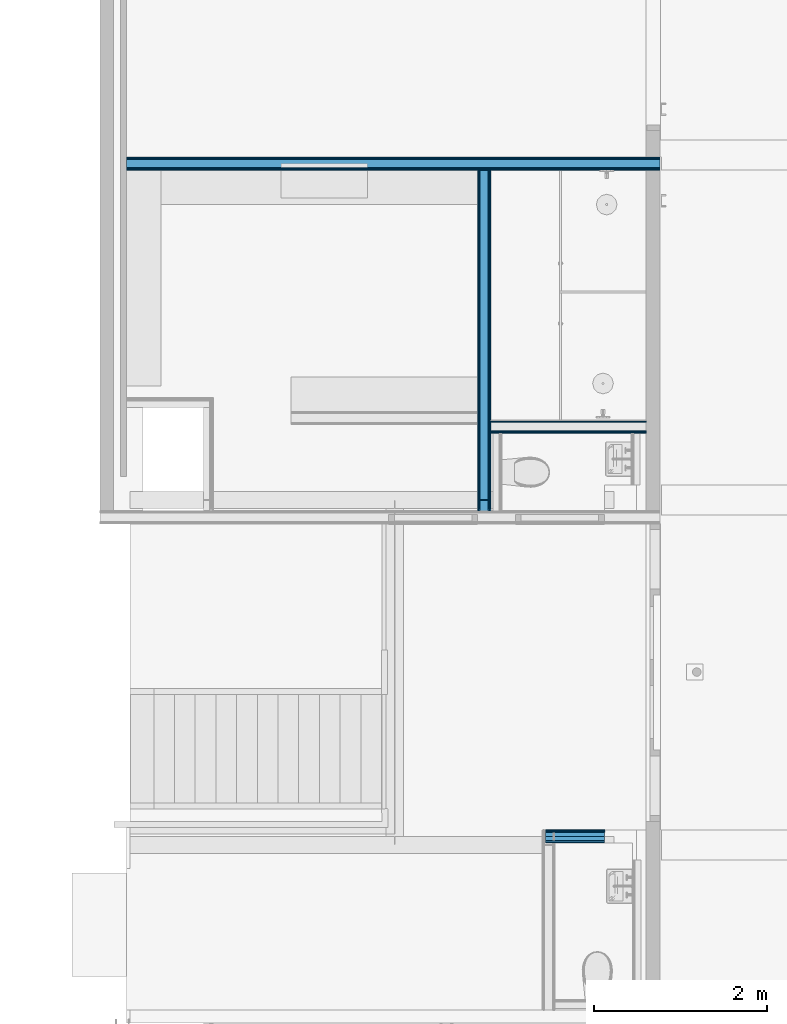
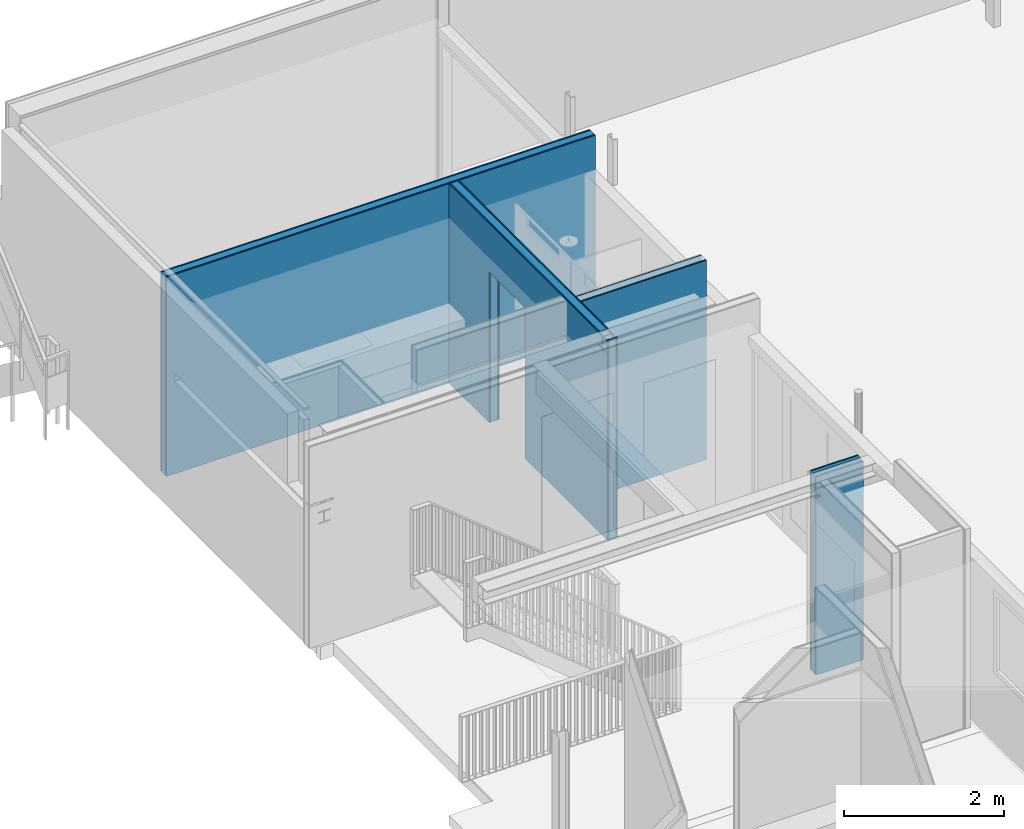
# One storey, part 12 of 35: 18 building element parts, 1 opening, 4 elements without a shape of their own.
"""IFC2X3 building model written with IfcOpenShell, lengths in millimetres."""

import ifcopenshell
import ifcopenshell.guid

model = None  # the IFC model being written
_history = None  # IfcOwnerHistory: only IFC2X3 demands one
_inside = {}  # id of a spatial element -> (the spatial element, [elements in it])
_under = {}  # id of a project, library or spatial element -> (it, [spatial elements below it])
_declared = {}  # id of a project -> (the project, [libraries it declares])
_typed = {}  # id of a type object -> (the type object, [elements of that type])
_made_of = {}  # id of a material, layer set ... -> (it, [elements and type objects made of it])


def new_model(schema):
    """Start an empty IFC model of exactly this schema.

    Asked for "IFC4X3", IfcOpenShell would pick the latest addendum, in which some entities
    have other attributes; the version numbers below select the first issue.
    IFC2X3 requires an IfcOwnerHistory on every rooted entity: one is made here for all.
    """
    global model, _history
    if schema == "IFC4X3":
        model = ifcopenshell.file(schema_version=(4, 3, 0, 0))
    else:
        model = ifcopenshell.file(schema=schema)
    _inside.clear()
    _under.clear()
    _declared.clear()
    _typed.clear()
    _made_of.clear()
    _history = None
    if model.schema == "IFC2X3":
        org = make("IfcOrganization", Name="unknown")
        user = make(
            "IfcPersonAndOrganization",
            ThePerson=make("IfcPerson", FamilyName="unknown"),
            TheOrganization=org,
        )
        app = make(
            "IfcApplication",
            ApplicationDeveloper=org,
            Version="unknown",
            ApplicationFullName="unknown",
            ApplicationIdentifier="unknown",
        )
        _history = make(
            "IfcOwnerHistory",
            OwningUser=user,
            OwningApplication=app,
            ChangeAction="ADDED",
            CreationDate=0,
        )
    return model


def make(cls, **values):
    """One entity of the class cls with the attributes given. An attribute that is None is left unset."""
    return model.create_entity(
        cls, **{name: value for name, value in values.items() if value is not None}
    )


def entity(cls, *values):
    """Any entity or typed value of the class cls, its attributes in the order of the schema. None: left unset."""
    e = model.create_entity(cls)
    for i, value in enumerate(values):
        if value is not None:
            e[i] = value
    return e


def rooted(cls, **values):
    """An entity with a GlobalId (a new one), such as an element, a storey or a relation."""
    return make(cls, GlobalId=ifcopenshell.guid.new(), OwnerHistory=_history, **values)


def si_unit(unit_type, name, prefix=None):
    """IfcSIUnit, for example si_unit("LENGTHUNIT", "METRE", prefix="MILLI")."""
    return make("IfcSIUnit", UnitType=unit_type, Prefix=prefix, Name=name)


def converted_unit(unit_type, name, factor, base, dimensions=None, offset=None):
    """IfcConversionBasedUnit, such as the inch: factor (a typed value) times the base unit."""
    return make(
        "IfcConversionBasedUnit"
        if offset is None
        else "IfcConversionBasedUnitWithOffset",
        ConversionOffset=offset,
        Dimensions=None
        if dimensions is None
        else entity("IfcDimensionalExponents", *dimensions),
        UnitType=unit_type,
        Name=name,
        ConversionFactor=make(
            "IfcMeasureWithUnit", ValueComponent=factor, UnitComponent=base
        ),
    )


def derived_unit(unit_type, elements):
    """IfcDerivedUnit: a product of units, each with its exponent."""
    return make(
        "IfcDerivedUnit",
        Elements=[
            make("IfcDerivedUnitElement", Unit=unit, Exponent=power)
            for unit, power in elements
        ],
        UnitType=unit_type,
    )


def money_unit(currency):
    """IfcMonetaryUnit."""
    return make("IfcMonetaryUnit", Currency=currency)


def assignment(units):
    """IfcUnitAssignment: the units of a project."""
    return None if units is None else make("IfcUnitAssignment", Units=units)


def point(xyz):
    """IfcCartesianPoint."""
    return None if xyz is None else make("IfcCartesianPoint", Coordinates=xyz)


def direction(xyz):
    """IfcDirection."""
    return None if xyz is None else make("IfcDirection", DirectionRatios=xyz)


def frame(location, z_axis=None, x_axis=None):
    """IfcAxis2Placement3D, a coordinate frame: its origin and axes. An axis left out is left unset."""
    return make(
        "IfcAxis2Placement3D",
        Location=point(location),
        Axis=direction(z_axis),
        RefDirection=direction(x_axis),
    )


def origin_with_axes():
    """The frame at (0, 0, 0) with the z axis (0, 0, 1) and the x axis (1, 0, 0) written out."""
    return frame((0.0, 0.0, 0.0), z_axis=(0.0, 0.0, 1.0), x_axis=(1.0, 0.0, 0.0))


def place(relative_to, where):
    """IfcLocalPlacement: puts the frame where relative to a parent placement (None: the world)."""
    return make(
        "IfcLocalPlacement", PlacementRelTo=relative_to, RelativePlacement=where
    )


def context(
    kind, dimensions, precision=None, world=None, true_north=None, identifier=None
):
    """IfcGeometricRepresentationContext, for example the 3D "Model" context."""
    return make(
        "IfcGeometricRepresentationContext",
        ContextIdentifier=identifier,
        ContextType=kind,
        CoordinateSpaceDimension=dimensions,
        Precision=precision,
        WorldCoordinateSystem=world,
        TrueNorth=true_north,
    )


def subcontext(parent, identifier, kind, view, scale=None):
    """IfcGeometricRepresentationSubContext, for example "Body" below "Model"."""
    return make(
        "IfcGeometricRepresentationSubContext",
        ContextIdentifier=identifier,
        ContextType=kind,
        ParentContext=parent,
        TargetScale=scale,
        TargetView=view,
    )


def project(units=None, contexts=None):
    """IfcProject with its units and contexts."""
    return rooted(
        "IfcProject",
        Name="project",
        RepresentationContexts=contexts,
        UnitsInContext=assignment(units),
    )


def spatial(cls, under=None, at=None, **own):
    """A site, building, storey or space (cls), placed at a placement, below another one or the project."""
    s = rooted(cls, ObjectPlacement=at, **own)
    if under is not None:
        _under.setdefault(under.id(), (under, []))[1].append(s)
    return s


def faces_of(points, faces, orient=None, outer=None):
    """IfcFace entities. A face is a list of loops; a loop is a list of indices into points, from 0.

    orient and outer hold one flag for each loop. By default every Orientation is true, the
    first loop of a face is its IfcFaceOuterBound and the others are IfcFaceBound.
    """
    made = []
    for i, loops in enumerate(faces):
        bounds = []
        for j, loop in enumerate(loops):
            is_outer = j == 0 if outer is None else outer[i][j]
            bounds.append(
                make(
                    "IfcFaceOuterBound" if is_outer else "IfcFaceBound",
                    Bound=make("IfcPolyLoop", Polygon=[points[k] for k in loop]),
                    Orientation=True if orient is None else orient[i][j],
                )
            )
        made.append(make("IfcFace", Bounds=bounds))
    return made


def faceted_brep(points, faces, orient=None, outer=None, voids=None):
    """IfcFacetedBrep: a solid bounded by flat faces; with voids (closed shells), ...WithVoids."""
    shared = [point(p) for p in points]
    hull = make("IfcClosedShell", CfsFaces=faces_of(shared, faces, orient, outer))
    if voids is None:
        return make("IfcFacetedBrep", Outer=hull)
    return make(
        "IfcFacetedBrepWithVoids",
        Outer=hull,
        Voids=[
            make(cls, CfsFaces=faces_of(shared, fs, o, b)) for cls, fs, o, b in voids
        ],
    )


def shape(context_of_items, identifier, shape_type, items):
    """IfcShapeRepresentation: the items that make up one representation, for example the "Body"."""
    return make(
        "IfcShapeRepresentation",
        ContextOfItems=context_of_items,
        RepresentationIdentifier=identifier,
        RepresentationType=shape_type,
        Items=items,
    )


def material(Name=None, Category=None):
    """IfcMaterial."""
    return make("IfcMaterial", Name=Name, Category=Category)


def made_of(thing, what):
    """Note that an element or type object is made of a material, layer set ...; save() writes the relation."""
    if what is not None:
        _made_of.setdefault(what.id(), (what, []))[1].append(thing)
    return thing


def type_object(cls, material=None, **own):
    """A type object (cls), such as IfcWallType, which elements share."""
    return made_of(rooted(cls, **own), material)


def element(
    cls,
    number,
    at=None,
    inside=None,
    cuts=None,
    type_object=None,
    material=None,
    context=None,
    identifier="Body",
    shape_type=None,
    held_by="IfcProductDefinitionShape",
    body=None,
    shapes=None,
    **own,
):
    """One element of the class cls, such as IfcWall. Its Tag is "e" and its number.

    at: its placement. inside: the storey or other place that contains it. cuts: it is an
    opening in that element (IfcRelVoidsElement). A single representation is given by context,
    identifier, shape_type and body (its items); several are given by shapes. held_by: the class
    of the entity that holds the representations. save() writes the other relations.
    """
    e = rooted(cls, Tag="e%d" % number, ObjectPlacement=at, **own)
    if body is not None:
        shapes = [shape(context, identifier, shape_type, body)]
    if shapes is not None:
        e.Representation = make(held_by, Representations=shapes)
    if inside is not None:
        _inside.setdefault(inside.id(), (inside, []))[1].append(e)
    if cuts is not None:
        rooted(
            "IfcRelVoidsElement", RelatingBuildingElement=cuts, RelatedOpeningElement=e
        )
    if type_object is not None:
        _typed.setdefault(type_object.id(), (type_object, []))[1].append(e)
    return made_of(e, material)


def aggregate(whole, parts):
    """IfcRelAggregates: a whole, such as a stair, and the parts it consists of."""
    return rooted("IfcRelAggregates", RelatingObject=whole, RelatedObjects=parts)


def save(model, path):
    """Write the relations noted so far, then the file.

    IfcRelAggregates (storeys below a building ...), IfcRelContainedInSpatialStructure (elements
    in a storey), IfcRelDefinesByType, IfcRelAssociatesMaterial and IfcRelDeclares: one each for
    every whole, place, type object, material and project.
    """
    for whole, parts in _under.values():
        aggregate(whole, parts)
    for where, things in _inside.values():
        rooted(
            "IfcRelContainedInSpatialStructure",
            RelatedElements=things,
            RelatingStructure=where,
        )
    for kind, things in _typed.values():
        rooted("IfcRelDefinesByType", RelatedObjects=things, RelatingType=kind)
    for what, things in _made_of.values():
        rooted("IfcRelAssociatesMaterial", RelatedObjects=things, RelatingMaterial=what)
    for by, libraries in _declared.values():
        rooted("IfcRelDeclares", RelatingContext=by, RelatedDefinitions=libraries)
    model.write(path)


model = new_model("IFC2X3")

# Units and contexts
model_context = context("Model", 3, precision=0.01, world=origin_with_axes(), true_north=direction((0.0, 1.0)))
body_context = subcontext(model_context, "Body", "Model", "MODEL_VIEW")
ifc_project = project(units=[si_unit("LENGTHUNIT", "METRE", prefix="MILLI"), si_unit("AREAUNIT", "SQUARE_METRE"), si_unit("VOLUMEUNIT", "CUBIC_METRE"), converted_unit("PLANEANGLEUNIT", "DEGREE", entity("IfcPlaneAngleMeasure", 0.0174532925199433), si_unit("PLANEANGLEUNIT", "RADIAN"), dimensions=[0, 0, 0, 0, 0, 0, 0]), money_unit("EUR"), converted_unit("TIMEUNIT", "Year", entity("IfcTimeMeasure", 31557600.0), si_unit("TIMEUNIT", "SECOND"), dimensions=[0, 0, 1, 0, 0, 0, 0]), si_unit("MASSUNIT", "GRAM", prefix="KILO"), si_unit("THERMODYNAMICTEMPERATUREUNIT", "DEGREE_CELSIUS"), si_unit("LUMINOUSINTENSITYUNIT", "LUMEN"), si_unit("ENERGYUNIT", "JOULE", prefix="MEGA"), derived_unit("THERMALCONDUCTANCEUNIT", [(si_unit("POWERUNIT", "WATT"), 1), (si_unit("LENGTHUNIT", "METRE"), -1), (si_unit("THERMODYNAMICTEMPERATUREUNIT", "KELVIN"), -1)]), derived_unit("SPECIFICHEATCAPACITYUNIT", [(si_unit("ENERGYUNIT", "JOULE"), 1), (si_unit("MASSUNIT", "GRAM", prefix="KILO"), -1), (si_unit("THERMODYNAMICTEMPERATUREUNIT", "KELVIN"), -1)]), derived_unit("MASSDENSITYUNIT", [(si_unit("MASSUNIT", "GRAM", prefix="KILO"), 1), (si_unit("VOLUMEUNIT", "CUBIC_METRE"), -1)])], contexts=[model_context])

# Site, building, storey
site_placement = place(None, origin_with_axes())
site = spatial("IfcSite", under=ifc_project, at=site_placement, Name="<site naam>", CompositionType="ELEMENT")
building_placement = place(site_placement, origin_with_axes())
building = spatial("IfcBuilding", under=site, at=building_placement, Name="<Naam gebouw>", CompositionType="ELEMENT")
storey_placement = place(building_placement, frame((0.0, 0.0, 6345.0), z_axis=(0.0, 0.0, 1.0), x_axis=(1.0, 0.0, 0.0)))
storey = spatial("IfcBuildingStorey", under=building, at=storey_placement, Name="02 2e tussenverdieping", CompositionType="ELEMENT", Elevation=6345.0)

# Wall, building element parts
wall_type = type_object("IfcWallType", Name="MS-01 GF 150 ECO DGS/2.100.2.A 150", PredefinedType="NOTDEFINED")
wall_1_placement = place(storey_placement, frame((52135.00000000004, 15824.99999999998, 0.0), z_axis=(0.0, 0.0, 1.0), x_axis=(1.0, 0.0, 0.0)))
wall_1 = element("IfcWall", 1, at=wall_1_placement, inside=storey, type_object=wall_type, Name="22_Binnenwand_MS-01")
ifc_material_1 = material(Name="gipsplaat")
building_element_part_1_placement = place(wall_1_placement, origin_with_axes())
building_element_part_1 = element("IfcBuildingElementPart", 2, at=building_element_part_1_placement, material=ifc_material_1, Name="gipsplaat", context=body_context, shape_type="Brep", body=[
    faceted_brep([(6182.782844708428, 137.5000000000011, 3038.000000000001), (6182.782844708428, 150.0000000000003, 3038.000000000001), (0.0, 150.0000000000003, 3038.000000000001), (0.0, 137.5000000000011, 3038.000000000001), (6182.782844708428, 137.5000000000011, 0.0), (6182.782844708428, 150.0000000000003, 0.0), (0.0, 150.0000000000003, 0.0), (0.0, 137.4999999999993, 0.0)], [[[0, 1, 2, 3]], [[0, 4, 5, 1]], [[1, 5, 6, 2]], [[3, 2, 6, 7]], [[4, 0, 3, 7]], [[5, 4, 7, 6]]]),
])
building_element_part_2_placement = place(wall_1_placement, origin_with_axes())
building_element_part_2 = element("IfcBuildingElementPart", 3, at=building_element_part_2_placement, material=ifc_material_1, Name="gipsplaat", context=body_context, shape_type="Brep", body=[
    faceted_brep([(6182.782844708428, 125.0, 3038.000000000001), (6182.782844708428, 137.5000000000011, 3038.000000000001), (0.0, 137.5000000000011, 3038.000000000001), (0.0, 125.0, 3038.000000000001), (6182.782844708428, 125.0, 0.0), (6182.782844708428, 137.5000000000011, 0.0), (0.0, 137.4999999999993, 0.0), (0.0, 125.0, 0.0)], [[[0, 1, 2, 3]], [[0, 4, 5, 1]], [[1, 5, 6, 2]], [[3, 2, 6, 7]], [[4, 0, 3, 7]], [[5, 4, 7, 6]]]),
])
ifc_material_2 = material(Name="isolatie_steenwol LSW")
building_element_part_3_placement = place(wall_1_placement, origin_with_axes())
building_element_part_3 = element("IfcBuildingElementPart", 4, at=building_element_part_3_placement, material=ifc_material_2, Name="isolatie_steenwol LSW", context=body_context, shape_type="Brep", body=[
    faceted_brep([(6182.782844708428, 25.00000000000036, 3038.000000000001), (6182.782844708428, 125.0, 3038.000000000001), (0.0, 125.0, 3038.000000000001), (0.0, 25.00000000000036, 3038.000000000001), (6182.782844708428, 25.00000000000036, 0.0), (6182.782844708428, 125.0, 0.0), (0.0, 125.0, 0.0), (0.0, 25.00000000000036, 0.0)], [[[0, 1, 2, 3]], [[0, 4, 5, 1]], [[1, 5, 6, 2]], [[3, 2, 6, 7]], [[4, 0, 3, 7]], [[5, 4, 7, 6]]]),
])
building_element_part_4_placement = place(wall_1_placement, origin_with_axes())
building_element_part_4 = element("IfcBuildingElementPart", 5, at=building_element_part_4_placement, material=ifc_material_1, Name="gipsplaat", context=body_context, shape_type="Brep", body=[
    faceted_brep([(6182.782844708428, 0.0, 3038.000000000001), (6182.782844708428, 12.50000000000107, 3038.000000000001), (0.0, 12.50000000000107, 3038.000000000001), (0.0, 0.0, 3038.000000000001), (6182.782844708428, 0.0, 0.0), (6182.782844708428, 12.50000000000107, 0.0), (0.0, 12.49999999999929, 0.0), (0.0, 0.0, 0.0)], [[[0, 1, 2, 3]], [[0, 4, 5, 1]], [[1, 5, 6, 2]], [[3, 2, 6, 7]], [[4, 0, 3, 7]], [[5, 4, 7, 6]]]),
])
building_element_part_5_placement = place(wall_1_placement, origin_with_axes())
building_element_part_5 = element("IfcBuildingElementPart", 6, at=building_element_part_5_placement, material=ifc_material_1, Name="gipsplaat", context=body_context, shape_type="Brep", body=[
    faceted_brep([(6182.782844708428, 12.50000000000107, 3038.000000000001), (6182.782844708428, 25.00000000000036, 3038.000000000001), (0.0, 25.00000000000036, 3038.000000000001), (0.0, 12.50000000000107, 3038.000000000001), (6182.782844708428, 12.50000000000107, 0.0), (6182.782844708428, 25.00000000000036, 0.0), (0.0, 25.00000000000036, 0.0), (0.0, 12.49999999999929, 0.0)], [[[0, 1, 2, 3]], [[0, 4, 5, 1]], [[1, 5, 6, 2]], [[3, 2, 6, 7]], [[4, 0, 3, 7]], [[5, 4, 7, 6]]]),
])
aggregate(wall_1, [building_element_part_1, building_element_part_2, building_element_part_3, building_element_part_4, building_element_part_5])

wall_2_placement = place(storey_placement, frame((58157.78284470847, 12775.95640098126, 0.0), z_axis=(0.0, 0.0, 1.0), x_axis=(-1.0, 0.0, 0.0)))
wall_2 = element("IfcWall", 7, at=wall_2_placement, inside=storey, type_object=wall_type, Name="22_Binnenwand_MS-01")
building_element_part_6_placement = place(wall_2_placement, origin_with_axes())
building_element_part_6 = element("IfcBuildingElementPart", 8, at=building_element_part_6_placement, material=ifc_material_1, Name="gipsplaat", context=body_context, shape_type="Brep", body=[
    faceted_brep([(1802.747141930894, -25.00000000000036, 0.0), (0.0, -25.00000000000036, 0.0), (0.0, -12.49999999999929, 0.0), (1802.747141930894, -12.49999999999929, 0.0), (1802.747141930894, -25.00000000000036, 3038.000000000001), (0.0, -25.00000000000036, 3038.000000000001), (0.0, -12.49999999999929, 3038.000000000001), (1802.747141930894, -12.49999999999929, 3038.000000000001)], [[[0, 1, 2, 3]], [[4, 5, 1, 0]], [[2, 1, 5, 6]], [[3, 2, 6, 7]], [[3, 7, 4, 0]], [[7, 6, 5, 4]]]),
])
building_element_part_7_placement = place(wall_2_placement, origin_with_axes())
building_element_part_7 = element("IfcBuildingElementPart", 9, at=building_element_part_7_placement, material=ifc_material_1, Name="gipsplaat", context=body_context, shape_type="Brep", body=[
    faceted_brep([(1802.747141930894, -12.49999999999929, 0.0), (0.0, -12.49999999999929, 0.0), (0.0, 0.0, 0.0), (1802.747141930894, 0.0, 0.0), (1802.747141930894, -12.49999999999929, 3038.000000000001), (0.0, -12.49999999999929, 3038.000000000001), (0.0, 0.0, 3038.000000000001), (1802.747141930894, 0.0, 3038.000000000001)], [[[0, 1, 2, 3]], [[4, 5, 1, 0]], [[2, 1, 5, 6]], [[3, 2, 6, 7]], [[3, 7, 4, 0]], [[7, 6, 5, 4]]]),
])
building_element_part_8_placement = place(wall_2_placement, origin_with_axes())
building_element_part_8 = element("IfcBuildingElementPart", 10, at=building_element_part_8_placement, material=ifc_material_1, Name="gipsplaat", context=body_context, shape_type="Brep", body=[
    faceted_brep([(1802.747141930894, -137.4999999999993, 0.0), (0.0, -137.4999999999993, 0.0), (0.0, -125.0, 0.0), (1802.747141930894, -125.0, 0.0), (1802.747141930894, -137.4999999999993, 3038.000000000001), (0.0, -137.4999999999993, 3038.000000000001), (0.0, -125.0, 3038.000000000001), (1802.747141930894, -125.0, 3038.000000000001)], [[[0, 1, 2, 3]], [[4, 5, 1, 0]], [[2, 1, 5, 6]], [[3, 2, 6, 7]], [[3, 7, 4, 0]], [[7, 6, 5, 4]]]),
])
aggregate(wall_2, [building_element_part_6, building_element_part_7, building_element_part_8])

# Wall, opening, building element parts
wall_3_placement = place(storey_placement, frame((56355.03570277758, 15824.99999999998, 0.0), z_axis=(0.0, 0.0, 1.0), x_axis=(0.0, -1.0, 0.0)))
wall_3 = element("IfcWall", 11, at=wall_3_placement, inside=storey, type_object=wall_type, Name="22_Binnenwand_MS-01")
opening_placement = place(wall_3_placement, frame((1449.043599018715, 0.0, 0.0), z_axis=(0.0, 0.0, 1.0), x_axis=(1.0, 0.0, 0.0)))
element("IfcOpeningElement", 12, at=opening_placement, cuts=wall_3, Name="22__305", context=body_context, shape_type="Brep", body=[
    faceted_brep([(449.9999999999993, 0.9999999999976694, 2300.0), (449.9999999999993, 0.9999999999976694, 0.0), (-449.9999999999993, 0.9999999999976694, 0.0), (-449.9999999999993, 0.9999999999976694, 2300.0), (449.9999999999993, -150.9999999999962, 2300.0), (449.9999999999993, -150.9999999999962, 0.0), (-449.9999999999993, -150.9999999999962, 0.0), (-449.9999999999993, -150.9999999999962, 2300.0)], [[[0, 1, 2, 3]], [[4, 5, 1, 0]], [[5, 6, 2, 1]], [[6, 7, 3, 2]], [[7, 4, 0, 3]], [[6, 5, 4, 7]]]),
])
building_element_part_9_placement = place(wall_3_placement, origin_with_axes())
building_element_part_9 = element("IfcBuildingElementPart", 13, at=building_element_part_9_placement, material=ifc_material_1, Name="gipsplaat", context=body_context, shape_type="Brep", body=[
    faceted_brep([(3724.999996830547, -24.99999999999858, 3038.000000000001), (3724.999996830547, -12.50000000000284, 3038.000000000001), (0.0, -12.50000000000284, 3038.000000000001), (0.0, -24.99999999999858, 3038.000000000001), (3724.999996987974, -12.50000000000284, 3022.999992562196), (3724.999996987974, -24.99999999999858, 3022.999992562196), (3925.00000301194, -12.50000000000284, 3022.999992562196), (3925.000003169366, -12.50000000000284, 3038.000000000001), (3949.99999999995, -12.50000000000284, 3038.000000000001), (3949.99999999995, -12.50000000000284, 0.0), (1899.043597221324, -12.50000000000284, 0.0), (1899.043597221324, -12.50000000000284, 3.000000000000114), (999.0435778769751, -12.50000000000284, 3.000000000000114), (999.0435778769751, -12.50000000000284, 0.0), (0.0, -12.50000000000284, 0.0), (3820.499999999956, -12.50000000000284, 3022.999992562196), (3820.499999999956, -12.50000000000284, 2852.999998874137), (3724.999996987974, -12.50000000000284, 2852.999998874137), (3724.999996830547, -12.50000000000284, 2837.999991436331), (3925.000003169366, -12.50000000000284, 2837.999991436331), (3925.00000301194, -12.50000000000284, 2852.999998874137), (3829.499999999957, -12.50000000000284, 2852.999998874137), (3829.499999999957, -12.50000000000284, 3022.999992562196), (0.0, -24.99999999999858, 0.0), (999.0435778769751, -24.99999999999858, 0.0), (999.0435778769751, -24.99999999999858, 3.000000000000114), (1899.043597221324, -24.99999999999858, 3.000000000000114), (1899.043597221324, -24.99999999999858, 0.0), (3949.99999999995, -24.99999999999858, 0.0), (3949.99999999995, -24.99999999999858, 3038.000000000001), (3925.000003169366, -24.99999999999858, 3038.000000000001), (3925.00000301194, -24.99999999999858, 3022.999992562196), (3829.499999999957, -24.99999999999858, 3022.999992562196), (3829.499999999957, -24.99999999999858, 2852.999998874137), (3925.00000301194, -24.99999999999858, 2852.999998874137), (3925.000003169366, -24.99999999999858, 2837.999991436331), (3724.999996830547, -24.99999999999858, 2837.999991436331), (3724.999996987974, -24.99999999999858, 2852.999998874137), (3820.499999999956, -24.99999999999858, 2852.999998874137), (3820.499999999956, -24.99999999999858, 3022.999992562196)], [[[0, 1, 2, 3]], [[4, 1, 0, 5]], [[6, 7, 8, 9, 10, 11, 12, 13, 14, 2, 1, 4, 15, 16, 17, 18, 19, 20, 21, 22]], [[3, 2, 14, 23]], [[5, 0, 3, 23, 24, 25, 26, 27, 28, 29, 30, 31, 32, 33, 34, 35, 36, 37, 38, 39]], [[15, 4, 5, 39]], [[30, 7, 6, 31]], [[7, 30, 29, 8]], [[29, 28, 9, 8]], [[28, 27, 10, 9]], [[26, 11, 10, 27]], [[25, 12, 11, 26]], [[24, 13, 12, 25]], [[14, 13, 24, 23]], [[16, 15, 39, 38]], [[17, 16, 38, 37]], [[18, 17, 37, 36]], [[19, 18, 36, 35]], [[20, 19, 35, 34]], [[21, 20, 34, 33]], [[22, 21, 33, 32]], [[6, 22, 32, 31]]]),
])
building_element_part_10_placement = place(wall_3_placement, origin_with_axes())
building_element_part_10 = element("IfcBuildingElementPart", 14, at=building_element_part_10_placement, material=ifc_material_1, Name="gipsplaat", context=body_context, shape_type="Brep", body=[
    faceted_brep([(3724.999996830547, -12.50000000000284, 3038.000000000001), (3724.999996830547, 0.0, 3038.000000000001), (0.0, 0.0, 3038.000000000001), (0.0, -12.50000000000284, 3038.000000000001), (3724.999996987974, 0.0, 3022.999992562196), (3724.999996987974, -12.50000000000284, 3022.999992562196), (3925.00000301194, 0.0, 3022.999992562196), (3925.000003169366, 0.0, 3038.000000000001), (3949.99999999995, 0.0, 3038.000000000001), (3949.99999999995, 0.0, 0.0), (1899.043597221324, 0.0, 0.0), (1899.043597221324, 0.0, 3.000000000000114), (999.0435778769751, 0.0, 3.000000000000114), (999.0435778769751, 0.0, 0.0), (0.0, 0.0, 0.0), (3820.499999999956, 0.0, 3022.999992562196), (3820.499999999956, 0.0, 2852.999998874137), (3724.999996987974, 0.0, 2852.999998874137), (3724.999996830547, 0.0, 2837.999991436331), (3925.000003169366, 0.0, 2837.999991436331), (3925.00000301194, 0.0, 2852.999998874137), (3829.499999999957, 0.0, 2852.999998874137), (3829.499999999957, 0.0, 3022.999992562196), (0.0, -12.50000000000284, 0.0), (999.0435778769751, -12.50000000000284, 0.0), (999.0435778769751, -12.50000000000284, 3.000000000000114), (1899.043597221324, -12.50000000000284, 3.000000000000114), (1899.043597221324, -12.50000000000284, 0.0), (3949.99999999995, -12.50000000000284, 0.0), (3949.99999999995, -12.50000000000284, 3038.000000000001), (3925.000003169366, -12.50000000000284, 3038.000000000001), (3925.00000301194, -12.50000000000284, 3022.999992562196), (3829.499999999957, -12.50000000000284, 3022.999992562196), (3829.499999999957, -12.50000000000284, 2852.999998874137), (3925.00000301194, -12.50000000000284, 2852.999998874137), (3925.000003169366, -12.50000000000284, 2837.999991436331), (3724.999996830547, -12.50000000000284, 2837.999991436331), (3724.999996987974, -12.50000000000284, 2852.999998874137), (3820.499999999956, -12.50000000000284, 2852.999998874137), (3820.499999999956, -12.50000000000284, 3022.999992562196)], [[[0, 1, 2, 3]], [[4, 1, 0, 5]], [[6, 7, 8, 9, 10, 11, 12, 13, 14, 2, 1, 4, 15, 16, 17, 18, 19, 20, 21, 22]], [[3, 2, 14, 23]], [[5, 0, 3, 23, 24, 25, 26, 27, 28, 29, 30, 31, 32, 33, 34, 35, 36, 37, 38, 39]], [[15, 4, 5, 39]], [[30, 7, 6, 31]], [[7, 30, 29, 8]], [[29, 28, 9, 8]], [[28, 27, 10, 9]], [[26, 11, 10, 27]], [[25, 12, 11, 26]], [[24, 13, 12, 25]], [[14, 13, 24, 23]], [[16, 15, 39, 38]], [[17, 16, 38, 37]], [[18, 17, 37, 36]], [[19, 18, 36, 35]], [[20, 19, 35, 34]], [[21, 20, 34, 33]], [[22, 21, 33, 32]], [[6, 22, 32, 31]]]),
])
building_element_part_11_placement = place(wall_3_placement, origin_with_axes())
building_element_part_11 = element("IfcBuildingElementPart", 15, at=building_element_part_11_placement, material=ifc_material_2, Name="isolatie_steenwol LSW", context=body_context, shape_type="Brep", body=[
    faceted_brep([(3724.999996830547, -125.0, 3038.000000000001), (3724.999996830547, -24.99999999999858, 3038.000000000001), (0.0, -24.99999999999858, 3038.000000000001), (0.0, -125.0, 3038.000000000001), (3724.999996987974, -24.99999999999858, 3022.999992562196), (3724.999996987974, -125.0, 3022.999992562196), (3925.00000301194, -24.99999999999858, 3022.999992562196), (3925.000003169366, -24.99999999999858, 3038.000000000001), (3949.99999999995, -24.99999999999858, 3038.000000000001), (3949.99999999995, -24.99999999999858, 0.0), (1899.043597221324, -24.99999999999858, 0.0), (1899.043597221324, -24.99999999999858, 3.000000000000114), (999.0435778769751, -24.99999999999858, 3.000000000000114), (999.0435778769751, -24.99999999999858, 0.0), (0.0, -24.99999999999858, 0.0), (3820.499999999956, -24.99999999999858, 3022.999992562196), (3820.499999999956, -24.99999999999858, 2852.999998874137), (3724.999996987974, -24.99999999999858, 2852.999998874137), (3724.999996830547, -24.99999999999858, 2837.999991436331), (3925.000003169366, -24.99999999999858, 2837.999991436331), (3925.00000301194, -24.99999999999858, 2852.999998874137), (3829.499999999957, -24.99999999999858, 2852.999998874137), (3829.499999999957, -24.99999999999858, 3022.999992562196), (0.0, -125.0, 0.0), (999.0435778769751, -125.0, 0.0), (999.0435778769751, -125.0, 3.000000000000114), (1899.043597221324, -125.0, 3.000000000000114), (1899.043597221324, -125.0, 0.0), (3949.99999999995, -125.0, 0.0), (3949.99999999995, -125.0, 3038.000000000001), (3925.000003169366, -125.0, 3038.000000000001), (3925.00000301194, -125.0, 3022.999992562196), (3829.499999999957, -125.0, 3022.999992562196), (3829.499999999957, -125.0, 2852.999998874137), (3925.00000301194, -125.0, 2852.999998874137), (3925.000003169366, -125.0, 2837.999991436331), (3724.999996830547, -125.0, 2837.999991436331), (3724.999996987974, -125.0, 2852.999998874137), (3820.499999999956, -125.0, 2852.999998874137), (3820.499999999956, -125.0, 3022.999992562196)], [[[0, 1, 2, 3]], [[4, 1, 0, 5]], [[6, 7, 8, 9, 10, 11, 12, 13, 14, 2, 1, 4, 15, 16, 17, 18, 19, 20, 21, 22]], [[3, 2, 14, 23]], [[5, 0, 3, 23, 24, 25, 26, 27, 28, 29, 30, 31, 32, 33, 34, 35, 36, 37, 38, 39]], [[15, 4, 5, 39]], [[30, 7, 6, 31]], [[7, 30, 29, 8]], [[29, 28, 9, 8]], [[28, 27, 10, 9]], [[26, 11, 10, 27]], [[25, 12, 11, 26]], [[24, 13, 12, 25]], [[14, 13, 24, 23]], [[16, 15, 39, 38]], [[17, 16, 38, 37]], [[18, 17, 37, 36]], [[19, 18, 36, 35]], [[20, 19, 35, 34]], [[21, 20, 34, 33]], [[22, 21, 33, 32]], [[6, 22, 32, 31]]]),
])

# Wall, building element part
wall_4_placement = place(storey_placement, frame((57675.00000000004, 8175.000000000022, 0.0), z_axis=(0.0, 0.0, 1.0), x_axis=(-1.0, 0.0, 0.0)))
wall_4 = element("IfcWall", 16, at=wall_4_placement, inside=storey, type_object=wall_type, Name="22_Binnenwand_MS-01")
building_element_part_12_placement = place(wall_4_placement, origin_with_axes())
building_element_part_12 = element("IfcBuildingElementPart", 17, at=building_element_part_12_placement, material=ifc_material_1, Name="gipsplaat", context=body_context, shape_type="Brep", body=[
    faceted_brep([(683.2171586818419, 137.4999999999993, 2837.99999214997), (0.0, 137.5000000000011, 2837.99999214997), (0.0, 137.4999999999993, 0.0), (617.21715529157, 137.4999999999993, 0.0), (617.21715529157, 137.4999999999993, 3.000000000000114), (683.2171586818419, 137.4999999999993, 3.000000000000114), (683.2171586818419, 137.4999999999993, 2700.000000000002), (617.2171201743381, 137.4999999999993, 2700.000000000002), (617.2171201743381, 137.4999999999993, 2740.000000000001), (683.2171586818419, 137.4999999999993, 2740.000000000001), (0.0, 150.0000000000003, 2837.99999214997), (683.2171586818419, 150.0000000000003, 2837.99999214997), (0.0, 150.0000000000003, 0.0), (617.21715529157, 150.0000000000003, 0.0), (617.21715529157, 150.0000000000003, 3.000000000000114), (683.2171586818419, 150.0000000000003, 3.000000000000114), (683.2171586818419, 150.0000000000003, 2700.000000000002), (617.2171201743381, 150.0000000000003, 2700.000000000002), (617.2171201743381, 150.0000000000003, 2740.000000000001), (683.2171586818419, 150.0000000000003, 2740.000000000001)], [[[0, 1, 2, 3, 4, 5, 6, 7, 8, 9]], [[10, 1, 0, 11]], [[1, 10, 12, 2]], [[12, 13, 3, 2]], [[14, 4, 3, 13]], [[15, 5, 4, 14]], [[15, 16, 6, 5]], [[17, 7, 6, 16]], [[18, 8, 7, 17]], [[19, 9, 8, 18]], [[11, 0, 9, 19]], [[10, 11, 19, 18, 17, 16, 15, 14, 13, 12]]]),
    faceted_brep([(0.0, 137.5000000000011, 3022.999993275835), (0.0, 150.0000000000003, 3022.999993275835), (0.0, 150.0000000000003, 2852.999999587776), (0.0, 137.5000000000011, 2852.999999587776), (683.2171586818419, 137.4999999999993, 3022.999993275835), (683.2171586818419, 150.0000000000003, 3022.999993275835), (683.2171586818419, 150.0000000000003, 2852.999999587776), (683.2171586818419, 137.4999999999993, 2852.999999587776)], [[[0, 1, 2, 3]], [[1, 0, 4, 5]], [[1, 5, 6, 2]], [[7, 3, 2, 6]], [[4, 0, 3, 7]], [[5, 4, 7, 6]]]),
])

# Building element part
building_element_part_13_placement = place(wall_3_placement, origin_with_axes())
building_element_part_13 = element("IfcBuildingElementPart", 18, at=building_element_part_13_placement, material=ifc_material_1, Name="gipsplaat", context=body_context, shape_type="Brep", body=[
    faceted_brep([(3724.999996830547, -149.9999999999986, 3038.000000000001), (3724.999996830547, -137.5000000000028, 3038.000000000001), (0.0, -137.5000000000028, 3038.000000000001), (0.0, -149.9999999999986, 3038.000000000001), (3724.999996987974, -137.5000000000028, 3022.999992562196), (3724.999996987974, -149.9999999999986, 3022.999992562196), (3925.00000301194, -137.5000000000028, 3022.999992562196), (3925.000003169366, -137.5000000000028, 3038.000000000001), (3949.99999999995, -137.5000000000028, 3038.000000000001), (3949.99999999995, -137.5000000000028, 0.0), (1899.043597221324, -137.5000000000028, 0.0), (1899.043597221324, -137.5000000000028, 3.000000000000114), (999.0435778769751, -137.5000000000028, 3.000000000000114), (999.0435778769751, -137.5000000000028, 0.0), (0.0, -137.5000000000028, 0.0), (3820.499999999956, -137.5000000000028, 3022.999992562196), (3820.499999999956, -137.5000000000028, 2852.999998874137), (3724.999996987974, -137.5000000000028, 2852.999998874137), (3724.999996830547, -137.5000000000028, 2837.999991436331), (3925.000003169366, -137.5000000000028, 2837.999991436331), (3925.00000301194, -137.5000000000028, 2852.999998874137), (3829.499999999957, -137.5000000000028, 2852.999998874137), (3829.499999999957, -137.5000000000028, 3022.999992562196), (0.0, -149.9999999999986, 0.0), (999.0435778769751, -149.9999999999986, 0.0), (999.0435778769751, -149.9999999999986, 3.000000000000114), (1899.043597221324, -149.9999999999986, 3.000000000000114), (1899.043597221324, -149.9999999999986, 0.0), (3949.99999999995, -149.9999999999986, 0.0), (3949.99999999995, -149.9999999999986, 3038.000000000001), (3925.000003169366, -149.9999999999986, 3038.000000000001), (3925.00000301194, -149.9999999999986, 3022.999992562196), (3829.499999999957, -149.9999999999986, 3022.999992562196), (3829.499999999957, -149.9999999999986, 2852.999998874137), (3925.00000301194, -149.9999999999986, 2852.999998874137), (3925.000003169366, -149.9999999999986, 2837.999991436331), (3724.999996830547, -149.9999999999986, 2837.999991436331), (3724.999996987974, -149.9999999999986, 2852.999998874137), (3820.499999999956, -149.9999999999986, 2852.999998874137), (3820.499999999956, -149.9999999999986, 3022.999992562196)], [[[0, 1, 2, 3]], [[4, 1, 0, 5]], [[6, 7, 8, 9, 10, 11, 12, 13, 14, 2, 1, 4, 15, 16, 17, 18, 19, 20, 21, 22]], [[3, 2, 14, 23]], [[5, 0, 3, 23, 24, 25, 26, 27, 28, 29, 30, 31, 32, 33, 34, 35, 36, 37, 38, 39]], [[15, 4, 5, 39]], [[30, 7, 6, 31]], [[7, 30, 29, 8]], [[29, 28, 9, 8]], [[28, 27, 10, 9]], [[26, 11, 10, 27]], [[25, 12, 11, 26]], [[24, 13, 12, 25]], [[14, 13, 24, 23]], [[16, 15, 39, 38]], [[17, 16, 38, 37]], [[18, 17, 37, 36]], [[19, 18, 36, 35]], [[20, 19, 35, 34]], [[21, 20, 34, 33]], [[22, 21, 33, 32]], [[6, 22, 32, 31]]]),
])

building_element_part_14_placement = place(wall_4_placement, origin_with_axes())
building_element_part_14 = element("IfcBuildingElementPart", 19, at=building_element_part_14_placement, material=ifc_material_1, Name="gipsplaat", context=body_context, shape_type="Brep", body=[
    faceted_brep([(683.2171586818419, 125.0, 2837.99999214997), (0.0, 125.0, 2837.99999214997), (0.0, 125.0, 0.0), (617.21715529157, 125.0, 0.0), (617.21715529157, 125.0, 3.000000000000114), (683.2171586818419, 125.0, 3.000000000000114), (683.2171586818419, 125.0, 2700.000000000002), (617.2171201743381, 125.0, 2700.000000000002), (617.2171201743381, 125.0, 2740.000000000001), (683.2171586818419, 125.0, 2740.000000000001), (0.0, 137.5000000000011, 2837.99999214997), (683.2171586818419, 137.4999999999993, 2837.99999214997), (0.0, 137.4999999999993, 0.0), (617.21715529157, 137.4999999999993, 0.0), (617.21715529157, 137.4999999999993, 3.000000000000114), (683.2171586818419, 137.4999999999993, 3.000000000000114), (683.2171586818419, 137.4999999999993, 2700.000000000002), (617.2171201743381, 137.4999999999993, 2700.000000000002), (617.2171201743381, 137.4999999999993, 2740.000000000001), (683.2171586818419, 137.4999999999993, 2740.000000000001)], [[[0, 1, 2, 3, 4, 5, 6, 7, 8, 9]], [[10, 1, 0, 11]], [[1, 10, 12, 2]], [[12, 13, 3, 2]], [[14, 4, 3, 13]], [[15, 5, 4, 14]], [[15, 16, 6, 5]], [[17, 7, 6, 16]], [[18, 8, 7, 17]], [[19, 9, 8, 18]], [[11, 0, 9, 19]], [[10, 11, 19, 18, 17, 16, 15, 14, 13, 12]]]),
    faceted_brep([(0.0, 125.0, 3022.999993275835), (0.0, 137.5000000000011, 3022.999993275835), (0.0, 137.5000000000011, 2852.999999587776), (0.0, 125.0, 2852.999999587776), (683.2171586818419, 125.0, 3022.999993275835), (683.2171586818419, 137.4999999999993, 3022.999993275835), (683.2171586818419, 137.4999999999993, 2852.999999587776), (683.2171586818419, 125.0, 2852.999999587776)], [[[0, 1, 2, 3]], [[1, 0, 4, 5]], [[1, 5, 6, 2]], [[7, 3, 2, 6]], [[4, 0, 3, 7]], [[5, 4, 7, 6]]]),
])

building_element_part_15_placement = place(wall_3_placement, origin_with_axes())
building_element_part_15 = element("IfcBuildingElementPart", 20, at=building_element_part_15_placement, material=ifc_material_1, Name="gipsplaat", context=body_context, shape_type="Brep", body=[
    faceted_brep([(3724.999996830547, -137.5000000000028, 3038.000000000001), (3724.999996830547, -125.0, 3038.000000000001), (0.0, -125.0, 3038.000000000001), (0.0, -137.5000000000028, 3038.000000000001), (3724.999996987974, -125.0, 3022.999992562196), (3724.999996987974, -137.5000000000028, 3022.999992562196), (3925.00000301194, -125.0, 3022.999992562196), (3925.000003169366, -125.0, 3038.000000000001), (3949.99999999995, -125.0, 3038.000000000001), (3949.99999999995, -125.0, 0.0), (1899.043597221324, -125.0, 0.0), (1899.043597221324, -125.0, 3.000000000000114), (999.0435778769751, -125.0, 3.000000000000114), (999.0435778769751, -125.0, 0.0), (0.0, -125.0, 0.0), (3820.499999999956, -125.0, 3022.999992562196), (3820.499999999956, -125.0, 2852.999998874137), (3724.999996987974, -125.0, 2852.999998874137), (3724.999996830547, -125.0, 2837.999991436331), (3925.000003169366, -125.0, 2837.999991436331), (3925.00000301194, -125.0, 2852.999998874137), (3829.499999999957, -125.0, 2852.999998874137), (3829.499999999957, -125.0, 3022.999992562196), (0.0, -137.5000000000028, 0.0), (999.0435778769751, -137.5000000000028, 0.0), (999.0435778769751, -137.5000000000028, 3.000000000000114), (1899.043597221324, -137.5000000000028, 3.000000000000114), (1899.043597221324, -137.5000000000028, 0.0), (3949.99999999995, -137.5000000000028, 0.0), (3949.99999999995, -137.5000000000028, 3038.000000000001), (3925.000003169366, -137.5000000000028, 3038.000000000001), (3925.00000301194, -137.5000000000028, 3022.999992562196), (3829.499999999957, -137.5000000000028, 3022.999992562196), (3829.499999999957, -137.5000000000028, 2852.999998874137), (3925.00000301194, -137.5000000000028, 2852.999998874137), (3925.000003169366, -137.5000000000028, 2837.999991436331), (3724.999996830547, -137.5000000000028, 2837.999991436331), (3724.999996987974, -137.5000000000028, 2852.999998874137), (3820.499999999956, -137.5000000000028, 2852.999998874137), (3820.499999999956, -137.5000000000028, 3022.999992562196)], [[[0, 1, 2, 3]], [[4, 1, 0, 5]], [[6, 7, 8, 9, 10, 11, 12, 13, 14, 2, 1, 4, 15, 16, 17, 18, 19, 20, 21, 22]], [[3, 2, 14, 23]], [[5, 0, 3, 23, 24, 25, 26, 27, 28, 29, 30, 31, 32, 33, 34, 35, 36, 37, 38, 39]], [[15, 4, 5, 39]], [[30, 7, 6, 31]], [[7, 30, 29, 8]], [[29, 28, 9, 8]], [[28, 27, 10, 9]], [[26, 11, 10, 27]], [[25, 12, 11, 26]], [[24, 13, 12, 25]], [[14, 13, 24, 23]], [[16, 15, 39, 38]], [[17, 16, 38, 37]], [[18, 17, 37, 36]], [[19, 18, 36, 35]], [[20, 19, 35, 34]], [[21, 20, 34, 33]], [[22, 21, 33, 32]], [[6, 22, 32, 31]]]),
])

aggregate(wall_3, [building_element_part_9, building_element_part_10, building_element_part_11, building_element_part_13, building_element_part_15])

building_element_part_16_placement = place(wall_4_placement, origin_with_axes())
building_element_part_16 = element("IfcBuildingElementPart", 21, at=building_element_part_16_placement, material=ifc_material_1, Name="gipsplaat", context=body_context, shape_type="Brep", body=[
    faceted_brep([(683.2171586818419, 0.0, 2700.000000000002), (617.2171201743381, 2.946380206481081e-05, 2700.000000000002), (617.2171201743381, 2.946380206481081e-05, 2740.000000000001), (683.2171586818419, 0.0, 2740.000000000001), (683.2171586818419, 0.0, 3038.000000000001), (0.0, 0.0, 3038.000000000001), (0.0, 0.0, 0.0), (617.21715529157, 0.0, 0.0), (617.21715529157, 0.0, 3.000000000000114), (683.2171586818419, 0.0, 3.000000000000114), (683.2171586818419, 12.49999999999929, 2700.000000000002), (617.2171201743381, 12.49999999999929, 2700.000000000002), (617.2171201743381, 12.49999999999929, 2740.000000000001), (683.2171586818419, 12.49999999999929, 2740.000000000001), (683.2171586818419, 12.49999999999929, 3038.000000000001), (0.0, 12.50000000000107, 3038.000000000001), (0.0, 12.49999999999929, 0.0), (617.21715529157, 12.49999999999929, 0.0), (617.21715529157, 12.49999999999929, 3.000000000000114), (683.2171586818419, 12.49999999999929, 3.000000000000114)], [[[0, 1, 2, 3, 4, 5, 6, 7, 8, 9]], [[1, 0, 10, 11]], [[2, 1, 11, 12]], [[3, 2, 12, 13]], [[3, 13, 14, 4]], [[5, 4, 14, 15]], [[6, 5, 15, 16]], [[17, 7, 6, 16]], [[8, 7, 17, 18]], [[9, 8, 18, 19]], [[10, 0, 9, 19]], [[11, 10, 19, 18, 17, 16, 15, 14, 13, 12]]]),
])

building_element_part_17_placement = place(wall_4_placement, origin_with_axes())
building_element_part_17 = element("IfcBuildingElementPart", 22, at=building_element_part_17_placement, material=ifc_material_2, Name="isolatie_steenwol LSW", context=body_context, shape_type="Brep", body=[
    faceted_brep([(0.0, 74.99999698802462, 3022.999993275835), (0.0, 125.0, 3022.999993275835), (0.0, 125.0, 2852.999999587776), (0.0, 74.99999698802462, 2852.999999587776), (0.0, 74.99999683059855, 2837.99999214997), (0.0, 125.0, 2837.99999214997), (0.0, 125.0, 0.0), (0.0, 25.00000000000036, 0.0), (0.0, 25.00000000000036, 3038.000000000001), (0.0, 74.99999683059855, 3038.00000071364), (683.2171586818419, 74.99999698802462, 3022.999993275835), (683.2171586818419, 125.0, 3022.999993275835), (683.2171586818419, 125.0, 2852.999999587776), (683.2171586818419, 74.99999698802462, 2852.999999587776), (683.2171586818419, 74.99999683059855, 2837.99999214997), (683.2171586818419, 125.0, 2837.99999214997), (683.2171586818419, 125.0, 2740.000000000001), (617.2171201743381, 125.0, 2740.000000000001), (617.2171201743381, 125.0, 2700.000000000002), (683.2171586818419, 125.0, 2700.000000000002), (683.2171586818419, 125.0, 3.000000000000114), (617.21715529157, 125.0, 3.000000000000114), (617.21715529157, 125.0, 0.0), (617.21715529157, 25.00000000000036, 0.0), (683.2171586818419, 25.00000000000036, 3.000000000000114), (683.2171586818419, 25.00000000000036, 2700.000000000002), (617.2171201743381, 25.00000000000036, 2700.000000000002), (617.2171201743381, 25.00000000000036, 2740.000000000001), (683.2171586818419, 25.00000000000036, 2740.000000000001), (683.2171586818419, 25.00000000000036, 3038.000000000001), (617.21715529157, 25.00000000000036, 3.000000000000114), (683.2171586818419, 74.99999683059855, 3038.00000071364)], [[[0, 1, 2, 3, 4, 5, 6, 7, 8, 9]], [[1, 0, 10, 11]], [[1, 11, 12, 2]], [[3, 2, 12, 13]], [[4, 3, 13, 14]], [[5, 4, 14, 15]], [[5, 15, 16, 17, 18, 19, 20, 21, 22, 6]], [[6, 22, 23, 7]], [[24, 25, 26, 27, 28, 29, 8, 7, 23, 30]], [[31, 9, 8, 29]], [[0, 9, 31, 10]], [[10, 31, 29, 28, 16, 15, 14, 13, 12, 11]], [[16, 28, 27, 17]], [[17, 27, 26, 18]], [[18, 26, 25, 19]], [[20, 19, 25, 24]], [[20, 24, 30, 21]], [[21, 30, 23, 22]]]),
])

building_element_part_18_placement = place(wall_4_placement, origin_with_axes())
building_element_part_18 = element("IfcBuildingElementPart", 23, at=building_element_part_18_placement, material=ifc_material_1, Name="gipsplaat", context=body_context, shape_type="Brep", body=[
    faceted_brep([(683.2171586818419, 12.49999999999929, 2700.000000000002), (617.2171201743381, 12.49999999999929, 2700.000000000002), (617.2171201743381, 12.49999999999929, 2740.000000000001), (683.2171586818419, 12.49999999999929, 2740.000000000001), (683.2171586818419, 12.49999999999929, 3038.000000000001), (0.0, 12.50000000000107, 3038.000000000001), (0.0, 12.49999999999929, 0.0), (617.21715529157, 12.49999999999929, 0.0), (617.21715529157, 12.49999999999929, 3.000000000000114), (683.2171586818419, 12.49999999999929, 3.000000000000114), (683.2171586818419, 25.00000000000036, 2700.000000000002), (617.2171201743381, 25.00000000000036, 2700.000000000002), (617.2171201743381, 25.00000000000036, 2740.000000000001), (683.2171586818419, 25.00000000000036, 2740.000000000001), (683.2171586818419, 25.00000000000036, 3038.000000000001), (0.0, 25.00000000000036, 3038.000000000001), (0.0, 25.00000000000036, 0.0), (617.21715529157, 25.00000000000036, 0.0), (617.21715529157, 25.00000000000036, 3.000000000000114), (683.2171586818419, 25.00000000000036, 3.000000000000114)], [[[0, 1, 2, 3, 4, 5, 6, 7, 8, 9]], [[1, 0, 10, 11]], [[2, 1, 11, 12]], [[3, 2, 12, 13]], [[3, 13, 14, 4]], [[5, 4, 14, 15]], [[6, 5, 15, 16]], [[17, 7, 6, 16]], [[8, 7, 17, 18]], [[9, 8, 18, 19]], [[10, 0, 9, 19]], [[11, 10, 19, 18, 17, 16, 15, 14, 13, 12]]]),
])

aggregate(wall_4, [building_element_part_12, building_element_part_14, building_element_part_16, building_element_part_17, building_element_part_18])

save(model, "model.ifc")
